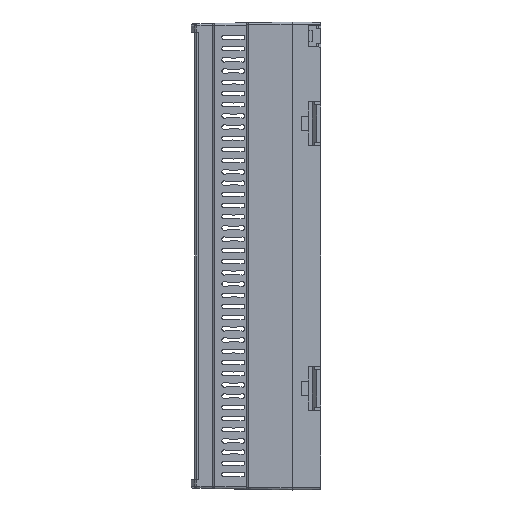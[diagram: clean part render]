
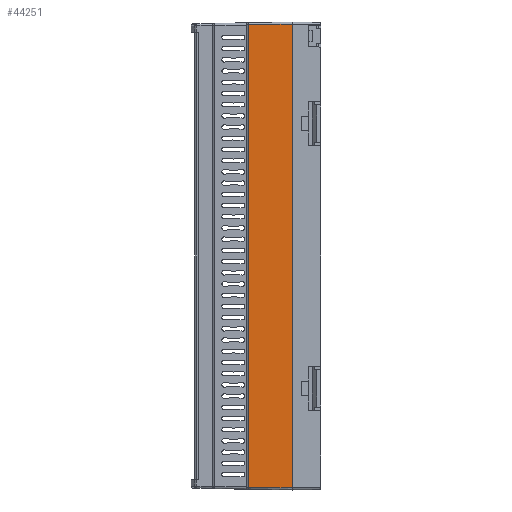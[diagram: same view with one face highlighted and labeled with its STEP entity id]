
A CAD part, left-side view. The second image highlights one B-rep face of the part: STEP entity #44251.
In plain terms, the highlighted planar face has unit normal (-1, 0.018, 0).
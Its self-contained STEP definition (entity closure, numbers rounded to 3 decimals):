
#1725 = EDGE_CURVE ( 'NONE', #28995, #26031, #43382, .T. ) ;
#2572 = LINE ( 'NONE', #37683, #30630 ) ;
#4111 = EDGE_CURVE ( 'NONE', #28995, #17363, #2572, .T. ) ;
#6040 = DIRECTION ( 'NONE',  ( 0., 0., -1. ) ) ;
#6597 = ORIENTED_EDGE ( 'NONE', *, *, #4111, .F. ) ;
#8046 = VECTOR ( 'NONE', #25250, 1000. ) ;
#10072 = CARTESIAN_POINT ( 'NONE',  ( -45., -22.9, 105.05 ) ) ;
#10085 = VECTOR ( 'NONE', #39230, 1000. ) ;
#10551 = LINE ( 'NONE', #11447, #10085 ) ;
#11447 = CARTESIAN_POINT ( 'NONE',  ( -44.658, -3.283, 106.05 ) ) ;
#11703 = CARTESIAN_POINT ( 'NONE',  ( -44.641, -2.317, 104.691 ) ) ;
#11940 = DIRECTION ( 'NONE',  ( 0.017, 1., -0.017 ) ) ;
#11978 = VERTEX_POINT ( 'NONE', #20654 ) ;
#12074 = VECTOR ( 'NONE', #11940, 1000. ) ;
#13028 = FACE_OUTER_BOUND ( 'NONE', #43250, .T. ) ;
#14820 = ORIENTED_EDGE ( 'NONE', *, *, #31879, .T. ) ;
#15148 = LINE ( 'NONE', #22262, #8046 ) ;
#15457 = EDGE_CURVE ( 'NONE', #11978, #17363, #15148, .T. ) ;
#17363 = VERTEX_POINT ( 'NONE', #40693 ) ;
#19456 = DIRECTION ( 'NONE',  ( -0.017, -1., 0. ) ) ;
#20654 = CARTESIAN_POINT ( 'NONE',  ( -44.658, -3.283, -104.708 ) ) ;
#22262 = CARTESIAN_POINT ( 'NONE',  ( -45., -22.917, -105.05 ) ) ;
#24507 = ORIENTED_EDGE ( 'NONE', *, *, #1725, .T. ) ;
#25250 = DIRECTION ( 'NONE',  ( -0.017, -1., -0.017 ) ) ;
#26031 = VERTEX_POINT ( 'NONE', #33457 ) ;
#28995 = VERTEX_POINT ( 'NONE', #10072 ) ;
#30023 = PLANE ( 'NONE',  #31930 ) ;
#30151 = ORIENTED_EDGE ( 'NONE', *, *, #15457, .T. ) ;
#30630 = VECTOR ( 'NONE', #6040, 1000. ) ;
#31879 = EDGE_CURVE ( 'NONE', #26031, #11978, #10551, .T. ) ;
#31930 = AXIS2_PLACEMENT_3D ( 'NONE', #37581, #36930, #19456 ) ;
#33457 = CARTESIAN_POINT ( 'NONE',  ( -44.658, -3.283, 104.708 ) ) ;
#36930 = DIRECTION ( 'NONE',  ( -1., 0.017, 0. ) ) ;
#37581 = CARTESIAN_POINT ( 'NONE',  ( -44.587, 0.778, 106.05 ) ) ;
#37683 = CARTESIAN_POINT ( 'NONE',  ( -45., -22.9, 106.05 ) ) ;
#39230 = DIRECTION ( 'NONE',  ( 0., 0., -1. ) ) ;
#40693 = CARTESIAN_POINT ( 'NONE',  ( -45., -22.9, -105.05 ) ) ;
#43250 = EDGE_LOOP ( 'NONE', ( #24507, #14820, #30151, #6597 ) ) ;
#43382 = LINE ( 'NONE', #11703, #12074 ) ;
#44251 = ADVANCED_FACE ( 'NONE', ( #13028 ), #30023, .T. ) ;
